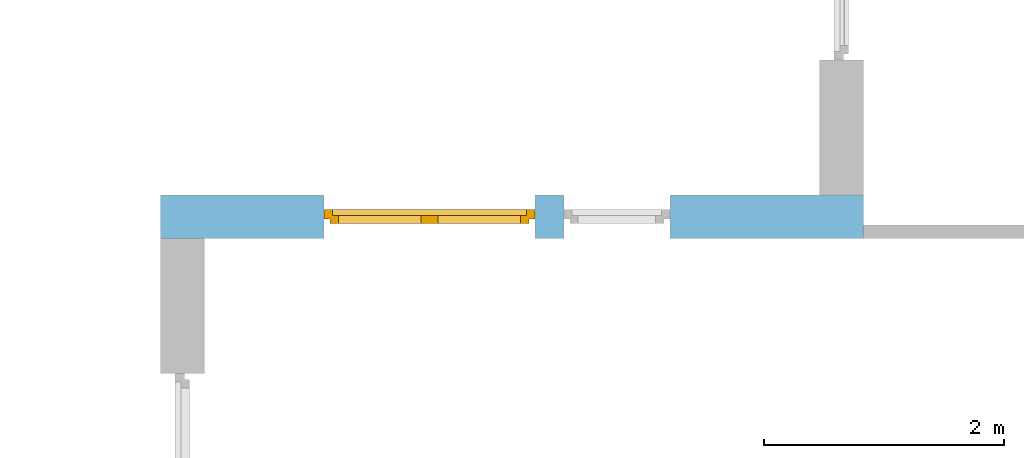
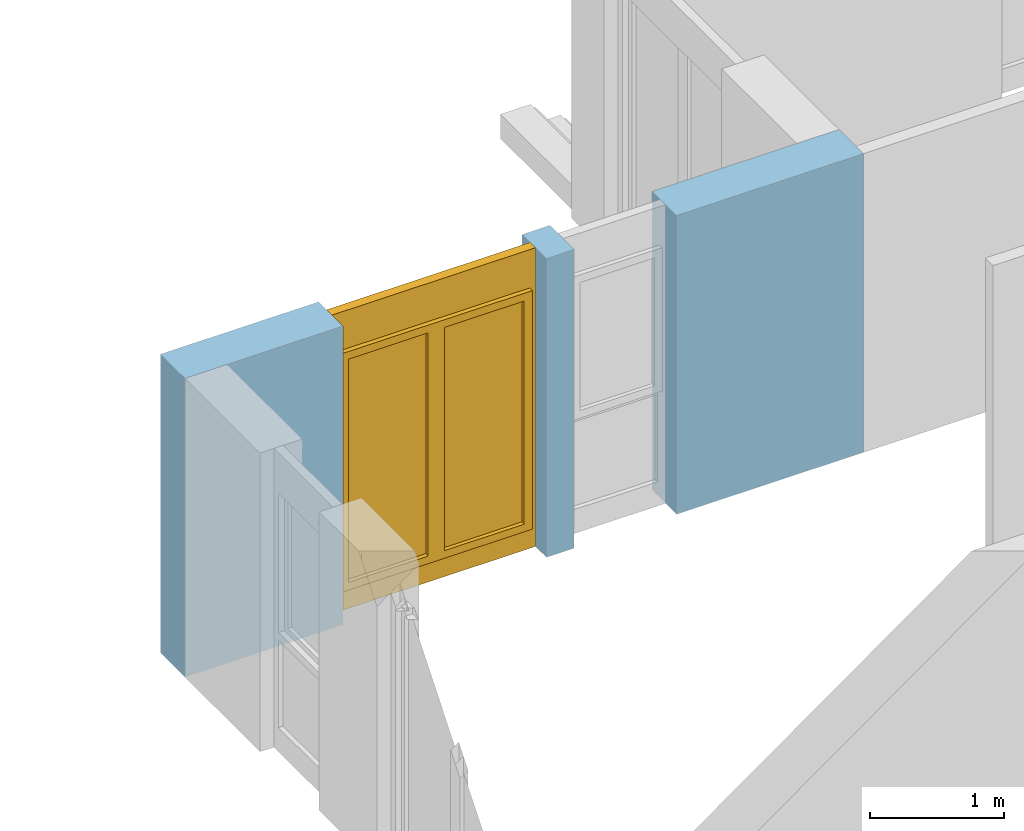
# One storey, part 18 of 41: 1 window, 2 openings, plus 1 element that does not belong to this part.
"""IFC2X3 building model written with IfcOpenShell, lengths in millimetres."""

from ifc_helpers import new_model, entity, si_unit, converted_unit, frame, frame_2d, origin, origin_with_axes, place, context, subcontext, project, spatial, rectangle, extrude, faceted_brep, material, layer, layer_set, layer_usage, type_object, element, fill, save


model = new_model("IFC2X3")

# Units and contexts
model_context = context("Model", 3, precision=1e-05, world=origin())
body_context = subcontext(model_context, "Body", "Model", "MODEL_VIEW")
ifc_project = project(units=[si_unit("LENGTHUNIT", "METRE", prefix="MILLI"), converted_unit("PLANEANGLEUNIT", "DEGREE", entity("IfcPlaneAngleMeasure", 0.0174532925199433), si_unit("PLANEANGLEUNIT", "RADIAN"), dimensions=[0, 0, 0, 0, 0, 0, 0]), si_unit("AREAUNIT", "SQUARE_METRE"), si_unit("VOLUMEUNIT", "CUBIC_METRE")], contexts=[model_context])

# Building, storey
building_placement = place(None, origin())
building = spatial("IfcBuilding", under=ifc_project, at=building_placement, Name="Gebäude", CompositionType="ELEMENT")
storey_placement = place(building_placement, frame((0.0, 0.0, -200.0), z_axis=(0.0, 0.0, 1.0), x_axis=(1.0, 0.0, 0.0)))
storey = spatial("IfcBuildingStorey", under=building, at=storey_placement, Name="EG.- Grundriss", CompositionType="ELEMENT", Elevation=-200.0)

# Wall, openings, window
ifc_material_1 = material(Name="Poroton")
ifc_layer = layer(ifc_material_1, 365.0000000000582)
ifc_layer_set = layer_set([ifc_layer])
ifc_layer_usage = layer_usage(ifc_layer_set, "AXIS2", "POSITIVE", 0.0)
wall_placement = place(storey_placement, frame((154222.7928067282, 136274.8877324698, 0.0), z_axis=(0.0, 0.0, 1.0), x_axis=(-1.0, 0.0, 0.0)))
wall = element("IfcWallStandardCase", 1, at=wall_placement, inside=storey, material=ifc_layer_usage, Name="<Unnamed Element>", context=body_context, shape_type="SweptSolid", body=[
    extrude(rectangle(XDim=5865.0, YDim=365.0000000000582, at=frame_2d((2932.5, 182.5000000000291), x_axis=(1.0, 0.0))), origin_with_axes(), (0.0, 0.0, 1.0), 2730.0),
])
opening_1_placement = place(wall_placement, frame((1615.0, 0.0, 0.0), z_axis=(0.0, 1.0, 0.0), x_axis=(0.0, 0.0, 1.0)))
element("IfcOpeningElement", 2, at=opening_1_placement, cuts=wall, Name="Fensteröffnung", ObjectType="Opening", context=body_context, shape_type="SweptSolid", body=[
    extrude(rectangle(XDim=2730.0, YDim=885.0, at=frame_2d((1365.0, 442.5), x_axis=(1.0, 0.0))), origin_with_axes(), (0.0, 0.0, 1.0), 365.0000000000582),
])
opening_2_placement = place(wall_placement, frame((2740.0, 0.0, 0.0), z_axis=(0.0, 1.0, 0.0), x_axis=(0.0, 0.0, 1.0)))
opening_2 = element("IfcOpeningElement", 3, at=opening_2_placement, cuts=wall, Name="Fensteröffnung", ObjectType="Opening", context=body_context, shape_type="SweptSolid", body=[
    extrude(rectangle(XDim=2730.0, YDim=1760.0, at=frame_2d((1365.0, 880.0), x_axis=(1.0, 0.0))), origin_with_axes(), (0.0, 0.0, 1.0), 365.0000000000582),
])
ifc_material_2 = material()
window_style = type_object("IfcWindowStyle", Name="Fenster", ConstructionType="NOTDEFINED", OperationType="USERDEFINED", ParameterTakesPrecedence=False, Sizeable=False)
window_placement = place(opening_2_placement, frame((0.0, 0.0, 0.0), z_axis=(1.0, 0.0, 0.0), x_axis=(0.0, 1.0, 0.0)))
window = element("IfcWindow", 4, at=window_placement, inside=storey, type_object=window_style, material=ifc_material_2, Name="Fenster", OverallHeight=2730.0, OverallWidth=1760.0, context=body_context, shape_type="Brep", body=[
    faceted_brep([(9.797174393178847e-15, 200.0000000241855, 2730.0), (9.797174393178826e-15, 200.0000000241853, -2.449293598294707e-15), (69.99999999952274, 200.0000000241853, -2.449293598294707e-15), (69.99999999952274, 200.0000000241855, 2730.0), (0.0, 120.0000000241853, 2.449293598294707e-15), (2.088393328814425e-29, 120.0000000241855, 2730.0), (69.99999999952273, 120.0000000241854, 2730.0), (69.99999999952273, 120.0000000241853, 2.449293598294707e-15), (9.797174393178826e-15, 200.0000000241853, -2.449293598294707e-15), (9.797174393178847e-15, 200.0000000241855, 2730.0), (2.088393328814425e-29, 120.0000000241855, 2730.0), (0.0, 120.0000000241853, 2.449293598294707e-15), (69.99999999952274, 200.0000000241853, -2.449293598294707e-15), (9.797174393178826e-15, 200.0000000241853, -2.449293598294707e-15), (0.0, 120.0000000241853, 2.449293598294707e-15), (69.99999999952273, 120.0000000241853, 2.449293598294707e-15), (69.99999999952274, 200.0000000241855, 2730.0), (69.99999999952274, 200.0000000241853, -2.449293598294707e-15), (69.99999999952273, 120.0000000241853, 2.449293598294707e-15), (69.99999999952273, 120.0000000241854, 2730.0), (9.797174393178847e-15, 200.0000000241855, 2730.0), (69.99999999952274, 200.0000000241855, 2730.0), (69.99999999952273, 120.0000000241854, 2730.0), (2.088393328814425e-29, 120.0000000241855, 2730.0)], [[[0, 1, 2, 3]], [[4, 5, 6, 7]], [[8, 9, 10, 11]], [[12, 13, 14, 15]], [[16, 17, 18, 19]], [[20, 21, 22, 23]]], orient=[[False], [False], [False], [False], [False], [False]]),
    faceted_brep([(1690.000000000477, 200.0000000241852, 2730.0), (1690.000000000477, 200.0000000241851, -2.449293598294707e-15), (1760.0, 200.0000000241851, -2.449293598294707e-15), (1760.0, 200.0000000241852, 2730.0), (1690.000000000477, 120.0000000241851, 2.449293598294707e-15), (1690.000000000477, 120.0000000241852, 2730.0), (1760.0, 120.0000000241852, 2730.0), (1760.0, 120.0000000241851, 2.449293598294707e-15), (1690.000000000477, 200.0000000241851, -2.449293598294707e-15), (1690.000000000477, 200.0000000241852, 2730.0), (1690.000000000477, 120.0000000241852, 2730.0), (1690.000000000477, 120.0000000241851, 2.449293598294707e-15), (1760.0, 200.0000000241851, -2.449293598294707e-15), (1690.000000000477, 200.0000000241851, -2.449293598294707e-15), (1690.000000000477, 120.0000000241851, 2.449293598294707e-15), (1760.0, 120.0000000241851, 2.449293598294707e-15), (1760.0, 200.0000000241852, 2730.0), (1760.0, 200.0000000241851, -2.449293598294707e-15), (1760.0, 120.0000000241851, 2.449293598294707e-15), (1760.0, 120.0000000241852, 2730.0), (1690.000000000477, 200.0000000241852, 2730.0), (1760.0, 200.0000000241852, 2730.0), (1760.0, 120.0000000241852, 2730.0), (1690.000000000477, 120.0000000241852, 2730.0)], [[[0, 1, 2, 3]], [[4, 5, 6, 7]], [[8, 9, 10, 11]], [[12, 13, 14, 15]], [[16, 17, 18, 19]], [[20, 21, 22, 23]]], orient=[[False], [False], [False], [False], [False], [False]]),
    faceted_brep([(69.99999999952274, 200.0000000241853, 220.0), (69.99999999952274, 200.0000000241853, -2.449293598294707e-15), (1690.000000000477, 200.0000000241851, -2.449293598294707e-15), (1690.000000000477, 200.0000000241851, 220.0), (69.99999999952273, 120.0000000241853, 2.449293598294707e-15), (69.99999999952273, 120.0000000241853, 220.0), (1690.000000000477, 120.0000000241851, 220.0), (1690.000000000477, 120.0000000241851, 2.449293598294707e-15), (69.99999999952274, 200.0000000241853, -2.449293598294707e-15), (69.99999999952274, 200.0000000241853, 220.0), (69.99999999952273, 120.0000000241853, 220.0), (69.99999999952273, 120.0000000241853, 2.449293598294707e-15), (1690.000000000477, 200.0000000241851, -2.449293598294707e-15), (69.99999999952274, 200.0000000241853, -2.449293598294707e-15), (69.99999999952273, 120.0000000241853, 2.449293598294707e-15), (1690.000000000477, 120.0000000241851, 2.449293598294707e-15), (1690.000000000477, 200.0000000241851, 220.0), (1690.000000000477, 200.0000000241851, -2.449293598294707e-15), (1690.000000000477, 120.0000000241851, 2.449293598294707e-15), (1690.000000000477, 120.0000000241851, 220.0), (69.99999999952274, 200.0000000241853, 220.0), (1690.000000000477, 200.0000000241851, 220.0), (1690.000000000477, 120.0000000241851, 220.0), (69.99999999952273, 120.0000000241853, 220.0)], [[[0, 1, 2, 3]], [[4, 5, 6, 7]], [[8, 9, 10, 11]], [[12, 13, 14, 15]], [[16, 17, 18, 19]], [[20, 21, 22, 23]]], orient=[[False], [False], [False], [False], [False], [False]]),
    faceted_brep([(69.99999999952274, 200.0000000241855, 2730.0), (69.99999999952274, 200.0000000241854, 2360.0), (1690.000000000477, 200.0000000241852, 2360.0), (1690.000000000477, 200.0000000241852, 2730.0), (69.99999999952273, 120.0000000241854, 2360.0), (69.99999999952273, 120.0000000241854, 2730.0), (1690.000000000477, 120.0000000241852, 2730.0), (1690.000000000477, 120.0000000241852, 2360.0), (69.99999999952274, 200.0000000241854, 2360.0), (69.99999999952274, 200.0000000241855, 2730.0), (69.99999999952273, 120.0000000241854, 2730.0), (69.99999999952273, 120.0000000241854, 2360.0), (1690.000000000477, 200.0000000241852, 2360.0), (69.99999999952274, 200.0000000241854, 2360.0), (69.99999999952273, 120.0000000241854, 2360.0), (1690.000000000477, 120.0000000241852, 2360.0), (1690.000000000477, 200.0000000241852, 2730.0), (1690.000000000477, 200.0000000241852, 2360.0), (1690.000000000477, 120.0000000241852, 2360.0), (1690.000000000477, 120.0000000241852, 2730.0), (69.99999999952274, 200.0000000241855, 2730.0), (1690.000000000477, 200.0000000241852, 2730.0), (1690.000000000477, 120.0000000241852, 2730.0), (69.99999999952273, 120.0000000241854, 2730.0)], [[[0, 1, 2, 3]], [[4, 5, 6, 7]], [[8, 9, 10, 11]], [[12, 13, 14, 15]], [[16, 17, 18, 19]], [[20, 21, 22, 23]]], orient=[[False], [False], [False], [False], [False], [False]]),
    faceted_brep([(49.99999999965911, 240.0000000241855, 2380.0), (49.99999999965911, 240.0000000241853, 200.0), (119.9999999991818, 240.0000000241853, 200.0), (119.9999999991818, 240.0000000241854, 2380.0), (49.9999999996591, 170.0000000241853, 200.0), (49.9999999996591, 170.0000000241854, 2380.0), (119.9999999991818, 170.0000000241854, 2380.0), (119.9999999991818, 170.0000000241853, 200.0), (49.99999999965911, 240.0000000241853, 200.0), (49.99999999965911, 240.0000000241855, 2380.0), (49.9999999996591, 170.0000000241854, 2380.0), (49.9999999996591, 170.0000000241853, 200.0), (119.9999999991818, 240.0000000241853, 200.0), (49.99999999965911, 240.0000000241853, 200.0), (49.9999999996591, 170.0000000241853, 200.0), (119.9999999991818, 170.0000000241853, 200.0), (119.9999999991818, 240.0000000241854, 2380.0), (119.9999999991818, 240.0000000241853, 200.0), (119.9999999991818, 170.0000000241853, 200.0), (119.9999999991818, 170.0000000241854, 2380.0), (49.99999999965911, 240.0000000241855, 2380.0), (119.9999999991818, 240.0000000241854, 2380.0), (119.9999999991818, 170.0000000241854, 2380.0), (49.9999999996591, 170.0000000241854, 2380.0)], [[[0, 1, 2, 3]], [[4, 5, 6, 7]], [[8, 9, 10, 11]], [[12, 13, 14, 15]], [[16, 17, 18, 19]], [[20, 21, 22, 23]]], orient=[[False], [False], [False], [False], [False], [False]]),
    faceted_brep([(809.5000000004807, 240.0000000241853, 2380.0), (809.5000000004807, 240.0000000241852, 200.0), (879.5000000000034, 240.0000000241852, 200.0), (879.5000000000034, 240.0000000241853, 2380.0), (809.5000000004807, 170.0000000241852, 200.0), (809.5000000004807, 170.0000000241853, 2380.0), (879.5000000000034, 170.0000000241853, 2380.0), (879.5000000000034, 170.0000000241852, 200.0), (809.5000000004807, 240.0000000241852, 200.0), (809.5000000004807, 240.0000000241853, 2380.0), (809.5000000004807, 170.0000000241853, 2380.0), (809.5000000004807, 170.0000000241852, 200.0), (879.5000000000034, 240.0000000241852, 200.0), (809.5000000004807, 240.0000000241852, 200.0), (809.5000000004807, 170.0000000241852, 200.0), (879.5000000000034, 170.0000000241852, 200.0), (879.5000000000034, 240.0000000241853, 2380.0), (879.5000000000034, 240.0000000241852, 200.0), (879.5000000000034, 170.0000000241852, 200.0), (879.5000000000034, 170.0000000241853, 2380.0), (809.5000000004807, 240.0000000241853, 2380.0), (879.5000000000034, 240.0000000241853, 2380.0), (879.5000000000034, 170.0000000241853, 2380.0), (809.5000000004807, 170.0000000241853, 2380.0)], [[[0, 1, 2, 3]], [[4, 5, 6, 7]], [[8, 9, 10, 11]], [[12, 13, 14, 15]], [[16, 17, 18, 19]], [[20, 21, 22, 23]]], orient=[[False], [False], [False], [False], [False], [False]]),
    faceted_brep([(119.9999999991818, 240.0000000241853, 270.0), (119.9999999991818, 240.0000000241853, 200.0), (809.5000000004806, 240.0000000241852, 200.0), (809.5000000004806, 240.0000000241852, 270.0), (119.9999999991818, 170.0000000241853, 200.0), (119.9999999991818, 170.0000000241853, 270.0), (809.5000000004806, 170.0000000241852, 270.0), (809.5000000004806, 170.0000000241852, 200.0), (119.9999999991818, 240.0000000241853, 200.0), (119.9999999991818, 240.0000000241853, 270.0), (119.9999999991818, 170.0000000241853, 270.0), (119.9999999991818, 170.0000000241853, 200.0), (809.5000000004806, 240.0000000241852, 200.0), (119.9999999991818, 240.0000000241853, 200.0), (119.9999999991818, 170.0000000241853, 200.0), (809.5000000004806, 170.0000000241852, 200.0), (809.5000000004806, 240.0000000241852, 270.0), (809.5000000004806, 240.0000000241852, 200.0), (809.5000000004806, 170.0000000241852, 200.0), (809.5000000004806, 170.0000000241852, 270.0), (119.9999999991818, 240.0000000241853, 270.0), (809.5000000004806, 240.0000000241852, 270.0), (809.5000000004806, 170.0000000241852, 270.0), (119.9999999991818, 170.0000000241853, 270.0)], [[[0, 1, 2, 3]], [[4, 5, 6, 7]], [[8, 9, 10, 11]], [[12, 13, 14, 15]], [[16, 17, 18, 19]], [[20, 21, 22, 23]]], orient=[[False], [False], [False], [False], [False], [False]]),
    faceted_brep([(119.9999999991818, 240.0000000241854, 2380.0), (119.9999999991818, 240.0000000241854, 2310.0), (809.5000000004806, 240.0000000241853, 2310.0), (809.5000000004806, 240.0000000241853, 2380.0), (119.9999999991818, 170.0000000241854, 2310.0), (119.9999999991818, 170.0000000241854, 2380.0), (809.5000000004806, 170.0000000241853, 2380.0), (809.5000000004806, 170.0000000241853, 2310.0), (119.9999999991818, 240.0000000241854, 2310.0), (119.9999999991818, 240.0000000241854, 2380.0), (119.9999999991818, 170.0000000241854, 2380.0), (119.9999999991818, 170.0000000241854, 2310.0), (809.5000000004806, 240.0000000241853, 2310.0), (119.9999999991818, 240.0000000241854, 2310.0), (119.9999999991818, 170.0000000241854, 2310.0), (809.5000000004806, 170.0000000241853, 2310.0), (809.5000000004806, 240.0000000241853, 2380.0), (809.5000000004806, 240.0000000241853, 2310.0), (809.5000000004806, 170.0000000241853, 2310.0), (809.5000000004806, 170.0000000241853, 2380.0), (119.9999999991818, 240.0000000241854, 2380.0), (809.5000000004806, 240.0000000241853, 2380.0), (809.5000000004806, 170.0000000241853, 2380.0), (119.9999999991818, 170.0000000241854, 2380.0)], [[[0, 1, 2, 3]], [[4, 5, 6, 7]], [[8, 9, 10, 11]], [[12, 13, 14, 15]], [[16, 17, 18, 19]], [[20, 21, 22, 23]]], orient=[[False], [False], [False], [False], [False], [False]]),
    faceted_brep([(880.4999999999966, 240.0000000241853, 2380.0), (880.4999999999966, 240.0000000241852, 200.0), (950.4999999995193, 240.0000000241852, 200.0), (950.4999999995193, 240.0000000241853, 2380.0), (880.4999999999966, 170.0000000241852, 200.0), (880.4999999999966, 170.0000000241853, 2380.0), (950.4999999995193, 170.0000000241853, 2380.0), (950.4999999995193, 170.0000000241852, 200.0), (880.4999999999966, 240.0000000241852, 200.0), (880.4999999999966, 240.0000000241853, 2380.0), (880.4999999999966, 170.0000000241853, 2380.0), (880.4999999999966, 170.0000000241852, 200.0), (950.4999999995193, 240.0000000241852, 200.0), (880.4999999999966, 240.0000000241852, 200.0), (880.4999999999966, 170.0000000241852, 200.0), (950.4999999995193, 170.0000000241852, 200.0), (950.4999999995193, 240.0000000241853, 2380.0), (950.4999999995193, 240.0000000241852, 200.0), (950.4999999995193, 170.0000000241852, 200.0), (950.4999999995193, 170.0000000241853, 2380.0), (880.4999999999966, 240.0000000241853, 2380.0), (950.4999999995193, 240.0000000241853, 2380.0), (950.4999999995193, 170.0000000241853, 2380.0), (880.4999999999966, 170.0000000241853, 2380.0)], [[[0, 1, 2, 3]], [[4, 5, 6, 7]], [[8, 9, 10, 11]], [[12, 13, 14, 15]], [[16, 17, 18, 19]], [[20, 21, 22, 23]]], orient=[[False], [False], [False], [False], [False], [False]]),
    faceted_brep([(1640.000000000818, 240.0000000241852, 2380.0), (1640.000000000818, 240.0000000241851, 200.0), (1710.000000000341, 240.0000000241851, 200.0), (1710.000000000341, 240.0000000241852, 2380.0), (1640.000000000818, 170.0000000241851, 200.0), (1640.000000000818, 170.0000000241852, 2380.0), (1710.000000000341, 170.0000000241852, 2380.0), (1710.000000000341, 170.0000000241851, 200.0), (1640.000000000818, 240.0000000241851, 200.0), (1640.000000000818, 240.0000000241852, 2380.0), (1640.000000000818, 170.0000000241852, 2380.0), (1640.000000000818, 170.0000000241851, 200.0), (1710.000000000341, 240.0000000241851, 200.0), (1640.000000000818, 240.0000000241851, 200.0), (1640.000000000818, 170.0000000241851, 200.0), (1710.000000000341, 170.0000000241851, 200.0), (1710.000000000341, 240.0000000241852, 2380.0), (1710.000000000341, 240.0000000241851, 200.0), (1710.000000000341, 170.0000000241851, 200.0), (1710.000000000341, 170.0000000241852, 2380.0), (1640.000000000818, 240.0000000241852, 2380.0), (1710.000000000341, 240.0000000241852, 2380.0), (1710.000000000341, 170.0000000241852, 2380.0), (1640.000000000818, 170.0000000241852, 2380.0)], [[[0, 1, 2, 3]], [[4, 5, 6, 7]], [[8, 9, 10, 11]], [[12, 13, 14, 15]], [[16, 17, 18, 19]], [[20, 21, 22, 23]]], orient=[[False], [False], [False], [False], [False], [False]]),
    faceted_brep([(950.4999999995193, 240.0000000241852, 270.0), (950.4999999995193, 240.0000000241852, 200.0), (1640.000000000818, 240.0000000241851, 200.0), (1640.000000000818, 240.0000000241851, 270.0), (950.4999999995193, 170.0000000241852, 200.0), (950.4999999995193, 170.0000000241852, 270.0), (1640.000000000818, 170.0000000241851, 270.0), (1640.000000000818, 170.0000000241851, 200.0), (950.4999999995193, 240.0000000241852, 200.0), (950.4999999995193, 240.0000000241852, 270.0), (950.4999999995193, 170.0000000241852, 270.0), (950.4999999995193, 170.0000000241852, 200.0), (1640.000000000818, 240.0000000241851, 200.0), (950.4999999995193, 240.0000000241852, 200.0), (950.4999999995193, 170.0000000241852, 200.0), (1640.000000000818, 170.0000000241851, 200.0), (1640.000000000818, 240.0000000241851, 270.0), (1640.000000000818, 240.0000000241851, 200.0), (1640.000000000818, 170.0000000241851, 200.0), (1640.000000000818, 170.0000000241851, 270.0), (950.4999999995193, 240.0000000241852, 270.0), (1640.000000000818, 240.0000000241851, 270.0), (1640.000000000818, 170.0000000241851, 270.0), (950.4999999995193, 170.0000000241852, 270.0)], [[[0, 1, 2, 3]], [[4, 5, 6, 7]], [[8, 9, 10, 11]], [[12, 13, 14, 15]], [[16, 17, 18, 19]], [[20, 21, 22, 23]]], orient=[[False], [False], [False], [False], [False], [False]]),
    faceted_brep([(950.4999999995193, 240.0000000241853, 2380.0), (950.4999999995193, 240.0000000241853, 2310.0), (1640.000000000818, 240.0000000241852, 2310.0), (1640.000000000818, 240.0000000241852, 2380.0), (950.4999999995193, 170.0000000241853, 2310.0), (950.4999999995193, 170.0000000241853, 2380.0), (1640.000000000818, 170.0000000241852, 2380.0), (1640.000000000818, 170.0000000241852, 2310.0), (950.4999999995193, 240.0000000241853, 2310.0), (950.4999999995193, 240.0000000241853, 2380.0), (950.4999999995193, 170.0000000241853, 2380.0), (950.4999999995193, 170.0000000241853, 2310.0), (1640.000000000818, 240.0000000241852, 2310.0), (950.4999999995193, 240.0000000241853, 2310.0), (950.4999999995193, 170.0000000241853, 2310.0), (1640.000000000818, 170.0000000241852, 2310.0), (1640.000000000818, 240.0000000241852, 2380.0), (1640.000000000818, 240.0000000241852, 2310.0), (1640.000000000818, 170.0000000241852, 2310.0), (1640.000000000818, 170.0000000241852, 2380.0), (950.4999999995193, 240.0000000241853, 2380.0), (1640.000000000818, 240.0000000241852, 2380.0), (1640.000000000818, 170.0000000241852, 2380.0), (950.4999999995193, 170.0000000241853, 2380.0)], [[[0, 1, 2, 3]], [[4, 5, 6, 7]], [[8, 9, 10, 11]], [[12, 13, 14, 15]], [[16, 17, 18, 19]], [[20, 21, 22, 23]]], orient=[[False], [False], [False], [False], [False], [False]]),
    faceted_brep([(119.9999999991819, 205.0000000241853, 270.0), (809.5000000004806, 205.0000000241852, 270.0), (809.5000000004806, 205.0000000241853, 2310.0), (119.9999999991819, 205.0000000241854, 2310.0), (119.9999999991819, 204.0000000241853, 270.0), (119.9999999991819, 204.0000000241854, 2310.0), (809.5000000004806, 204.0000000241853, 2310.0), (809.5000000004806, 204.0000000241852, 270.0), (119.9999999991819, 205.0000000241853, 270.0), (119.9999999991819, 204.0000000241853, 270.0), (809.5000000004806, 204.0000000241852, 270.0), (809.5000000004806, 205.0000000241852, 270.0), (809.5000000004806, 205.0000000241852, 270.0), (809.5000000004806, 204.0000000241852, 270.0), (809.5000000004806, 204.0000000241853, 2310.0), (809.5000000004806, 205.0000000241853, 2310.0), (809.5000000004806, 205.0000000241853, 2310.0), (809.5000000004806, 204.0000000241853, 2310.0), (119.9999999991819, 204.0000000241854, 2310.0), (119.9999999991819, 205.0000000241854, 2310.0), (119.9999999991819, 205.0000000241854, 2310.0), (119.9999999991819, 204.0000000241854, 2310.0), (119.9999999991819, 204.0000000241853, 270.0), (119.9999999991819, 205.0000000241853, 270.0)], [[[0, 1, 2, 3]], [[4, 5, 6, 7]], [[8, 9, 10, 11]], [[12, 13, 14, 15]], [[16, 17, 18, 19]], [[20, 21, 22, 23]]], orient=[[False], [False], [False], [False], [False], [False]]),
    faceted_brep([(950.4999999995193, 205.0000000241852, 270.0), (1640.000000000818, 205.0000000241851, 270.0), (1640.000000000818, 205.0000000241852, 2310.0), (950.4999999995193, 205.0000000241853, 2310.0), (950.4999999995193, 204.0000000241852, 270.0), (950.4999999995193, 204.0000000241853, 2310.0), (1640.000000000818, 204.0000000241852, 2310.0), (1640.000000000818, 204.0000000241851, 270.0), (950.4999999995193, 205.0000000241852, 270.0), (950.4999999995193, 204.0000000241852, 270.0), (1640.000000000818, 204.0000000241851, 270.0), (1640.000000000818, 205.0000000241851, 270.0), (1640.000000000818, 205.0000000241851, 270.0), (1640.000000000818, 204.0000000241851, 270.0), (1640.000000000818, 204.0000000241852, 2310.0), (1640.000000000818, 205.0000000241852, 2310.0), (1640.000000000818, 205.0000000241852, 2310.0), (1640.000000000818, 204.0000000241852, 2310.0), (950.4999999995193, 204.0000000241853, 2310.0), (950.4999999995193, 205.0000000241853, 2310.0), (950.4999999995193, 205.0000000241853, 2310.0), (950.4999999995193, 204.0000000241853, 2310.0), (950.4999999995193, 204.0000000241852, 270.0), (950.4999999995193, 205.0000000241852, 270.0)], [[[0, 1, 2, 3]], [[4, 5, 6, 7]], [[8, 9, 10, 11]], [[12, 13, 14, 15]], [[16, 17, 18, 19]], [[20, 21, 22, 23]]], orient=[[False], [False], [False], [False], [False], [False]]),
])
fill(opening_2, window)

save(model, "model.ifc")
